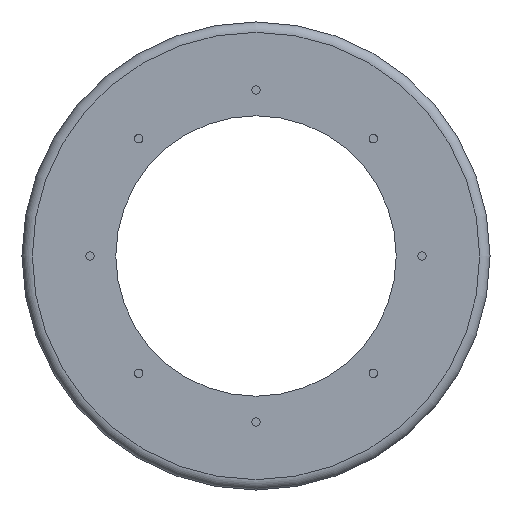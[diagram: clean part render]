
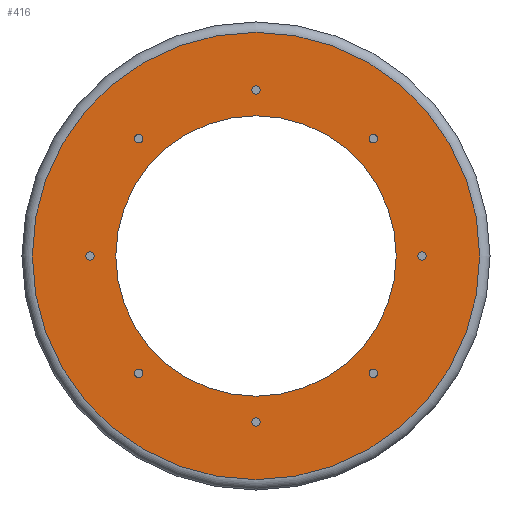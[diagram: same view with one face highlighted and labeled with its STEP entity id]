
A CAD part, front view. The second image highlights one B-rep face of the part: STEP entity #416.
In plain terms, the highlighted planar face has unit normal (0, -1, 0).
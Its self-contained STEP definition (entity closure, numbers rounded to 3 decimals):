
#27=PLANE('',#483);
#56=FACE_BOUND('',#153,.T.);
#57=FACE_BOUND('',#154,.T.);
#58=FACE_BOUND('',#155,.T.);
#59=FACE_BOUND('',#156,.T.);
#60=FACE_BOUND('',#157,.T.);
#61=FACE_BOUND('',#158,.T.);
#62=FACE_BOUND('',#159,.T.);
#63=FACE_BOUND('',#160,.T.);
#64=FACE_BOUND('',#161,.T.);
#94=FACE_OUTER_BOUND('',#152,.T.);
#152=EDGE_LOOP('',(#342));
#153=EDGE_LOOP('',(#343));
#154=EDGE_LOOP('',(#344));
#155=EDGE_LOOP('',(#345));
#156=EDGE_LOOP('',(#346));
#157=EDGE_LOOP('',(#347));
#158=EDGE_LOOP('',(#348));
#159=EDGE_LOOP('',(#349));
#160=EDGE_LOOP('',(#350));
#161=EDGE_LOOP('',(#351));
#208=CIRCLE('',#482,217.);
#209=CIRCLE('',#484,136.);
#210=CIRCLE('',#485,4.);
#211=CIRCLE('',#486,4.);
#212=CIRCLE('',#487,4.);
#213=CIRCLE('',#488,4.);
#214=CIRCLE('',#489,4.);
#215=CIRCLE('',#490,4.);
#216=CIRCLE('',#491,4.);
#217=CIRCLE('',#492,4.);
#246=VERTEX_POINT('',#733);
#247=VERTEX_POINT('',#736);
#248=VERTEX_POINT('',#738);
#249=VERTEX_POINT('',#740);
#250=VERTEX_POINT('',#742);
#251=VERTEX_POINT('',#744);
#252=VERTEX_POINT('',#746);
#253=VERTEX_POINT('',#748);
#254=VERTEX_POINT('',#750);
#255=VERTEX_POINT('',#752);
#284=EDGE_CURVE('',#246,#246,#208,.T.);
#285=EDGE_CURVE('',#247,#247,#209,.T.);
#286=EDGE_CURVE('',#248,#248,#210,.T.);
#287=EDGE_CURVE('',#249,#249,#211,.T.);
#288=EDGE_CURVE('',#250,#250,#212,.T.);
#289=EDGE_CURVE('',#251,#251,#213,.T.);
#290=EDGE_CURVE('',#252,#252,#214,.T.);
#291=EDGE_CURVE('',#253,#253,#215,.T.);
#292=EDGE_CURVE('',#254,#254,#216,.T.);
#293=EDGE_CURVE('',#255,#255,#217,.T.);
#342=ORIENTED_EDGE('',*,*,#284,.F.);
#343=ORIENTED_EDGE('',*,*,#285,.T.);
#344=ORIENTED_EDGE('',*,*,#286,.T.);
#345=ORIENTED_EDGE('',*,*,#287,.T.);
#346=ORIENTED_EDGE('',*,*,#288,.T.);
#347=ORIENTED_EDGE('',*,*,#289,.T.);
#348=ORIENTED_EDGE('',*,*,#290,.T.);
#349=ORIENTED_EDGE('',*,*,#291,.T.);
#350=ORIENTED_EDGE('',*,*,#292,.T.);
#351=ORIENTED_EDGE('',*,*,#293,.T.);
#416=ADVANCED_FACE('',(#94,#56,#57,#58,#59,#60,#61,#62,#63,#64),#27,.F.);
#482=AXIS2_PLACEMENT_3D('',#734,#600,#601);
#483=AXIS2_PLACEMENT_3D('',#735,#602,#603);
#484=AXIS2_PLACEMENT_3D('',#737,#604,#605);
#485=AXIS2_PLACEMENT_3D('',#739,#606,#607);
#486=AXIS2_PLACEMENT_3D('',#741,#608,#609);
#487=AXIS2_PLACEMENT_3D('',#743,#610,#611);
#488=AXIS2_PLACEMENT_3D('',#745,#612,#613);
#489=AXIS2_PLACEMENT_3D('',#747,#614,#615);
#490=AXIS2_PLACEMENT_3D('',#749,#616,#617);
#491=AXIS2_PLACEMENT_3D('',#751,#618,#619);
#492=AXIS2_PLACEMENT_3D('',#753,#620,#621);
#600=DIRECTION('center_axis',(0.,1.,0.));
#601=DIRECTION('ref_axis',(1.,0.,0.));
#602=DIRECTION('center_axis',(0.,1.,0.));
#603=DIRECTION('ref_axis',(0.,0.,1.));
#604=DIRECTION('center_axis',(0.,1.,0.));
#605=DIRECTION('ref_axis',(1.,0.,0.));
#606=DIRECTION('center_axis',(0.,1.,0.));
#607=DIRECTION('ref_axis',(1.,0.,0.));
#608=DIRECTION('center_axis',(0.,1.,0.));
#609=DIRECTION('ref_axis',(0.707,0.,-0.707));
#610=DIRECTION('center_axis',(0.,1.,0.));
#611=DIRECTION('ref_axis',(0.,0.,-1.));
#612=DIRECTION('center_axis',(0.,1.,0.));
#613=DIRECTION('ref_axis',(-0.707,0.,-0.707));
#614=DIRECTION('center_axis',(0.,1.,0.));
#615=DIRECTION('ref_axis',(-1.,0.,0.));
#616=DIRECTION('center_axis',(0.,1.,0.));
#617=DIRECTION('ref_axis',(-0.707,0.,0.707));
#618=DIRECTION('center_axis',(0.,1.,0.));
#619=DIRECTION('ref_axis',(0.,0.,1.));
#620=DIRECTION('center_axis',(0.,1.,0.));
#621=DIRECTION('ref_axis',(0.707,0.,0.707));
#733=CARTESIAN_POINT('',(-217.,-600.,0.));
#734=CARTESIAN_POINT('Origin',(0.,-600.,0.));
#735=CARTESIAN_POINT('Origin',(0.,-600.,0.));
#736=CARTESIAN_POINT('',(-136.,-600.,0.));
#737=CARTESIAN_POINT('Origin',(0.,-600.,0.));
#738=CARTESIAN_POINT('',(4.,-600.,161.));
#739=CARTESIAN_POINT('Origin',(0.,-600.,161.));
#740=CARTESIAN_POINT('',(116.673,-600.,111.016));
#741=CARTESIAN_POINT('Origin',(113.844,-600.,113.844));
#742=CARTESIAN_POINT('',(161.,-600.,-4.));
#743=CARTESIAN_POINT('Origin',(161.,-600.,0.));
#744=CARTESIAN_POINT('',(111.016,-600.,-116.673));
#745=CARTESIAN_POINT('Origin',(113.844,-600.,-113.844));
#746=CARTESIAN_POINT('',(-4.,-600.,-161.));
#747=CARTESIAN_POINT('Origin',(0.,-600.,-161.));
#748=CARTESIAN_POINT('',(-116.673,-600.,-111.016));
#749=CARTESIAN_POINT('Origin',(-113.844,-600.,-113.844));
#750=CARTESIAN_POINT('',(-161.,-600.,4.));
#751=CARTESIAN_POINT('Origin',(-161.,-600.,0.));
#752=CARTESIAN_POINT('',(-111.016,-600.,116.673));
#753=CARTESIAN_POINT('Origin',(-113.844,-600.,113.844));
